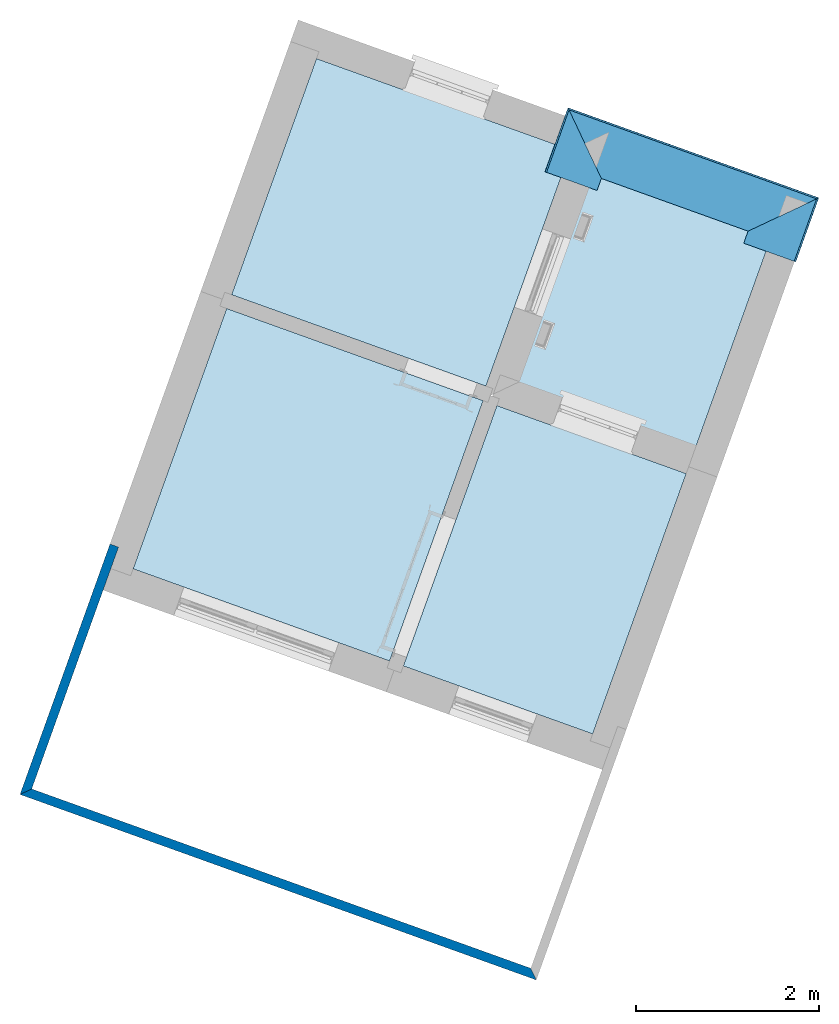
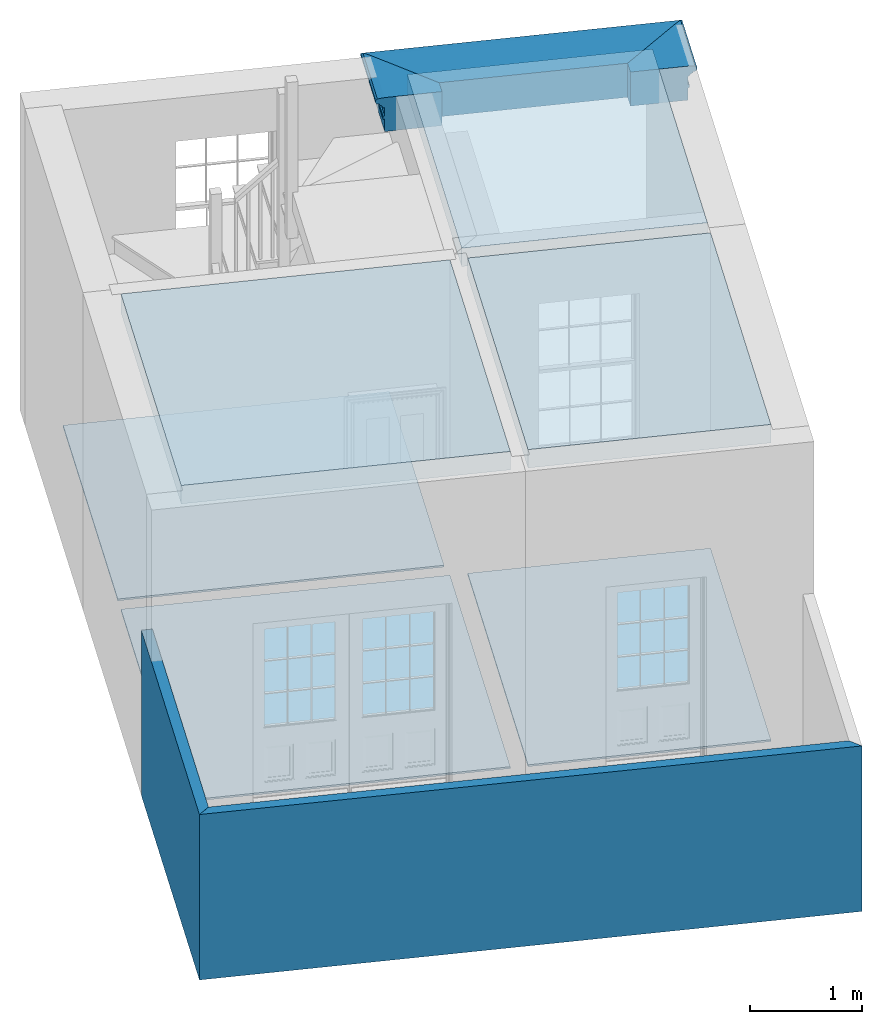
# One storey, part 1 of 8: 6 slabs, 3 beams, 2 walls.
"""IFC4 building model written with IfcOpenShell, lengths in metres."""

from ifc_helpers import new_model, si_unit, frame, origin_with_axes, place, context, subcontext, project, spatial, polyline, outline, extrude, clip, halfspace, material, layer, layer_set, layer_usage, material_profile, profile_set, profile_usage, type_object, element, save


model = new_model("IFC4")

# Units and contexts
model_context = context("Model", 3, world=origin_with_axes())
body_context = subcontext(model_context, "Body", "Model", "MODEL_VIEW")
ifc_project = project(units=[si_unit("PLANEANGLEUNIT", "RADIAN"), si_unit("MASSUNIT", "GRAM", prefix="KILO"), si_unit("FORCEUNIT", "NEWTON", prefix="KILO"), si_unit("LENGTHUNIT", "METRE"), si_unit("AREAUNIT", "SQUARE_METRE"), si_unit("VOLUMEUNIT", "CUBIC_METRE")], contexts=[model_context, model_context])

# Sites, building, storey
site_1_placement = place(None, origin_with_axes())
site_1 = spatial("IfcSite", under=ifc_project, at=site_1_placement, Name="Tamar")
site_2_placement = place(site_1_placement, origin_with_axes())
site_2 = spatial("IfcSite", under=site_1, at=site_2_placement, Name="Site plot-25", CompositionType="ELEMENT")
building_placement = place(None, origin_with_axes())
building = spatial("IfcBuilding", under=site_2, at=building_placement, Name="Building plot-25", CompositionType="ELEMENT")
storey_placement = place(None, frame((0.0, 0.0, 26.0), z_axis=(0.0, 0.0, 1.0), x_axis=(1.0, 0.0, 0.0)))
storey = spatial("IfcBuildingStorey", under=building, at=storey_placement, Name="plot-25 0", CompositionType="ELEMENT", Elevation=26.0)

# Beams
ifc_material_profile = material_profile(None, outline(polyline([(-0.26, 0.0), (-0.26, -0.37), (0.26, -0.37), (0.26, -0.235), (0.275, -0.235), (0.275, -0.2), (0.26, -0.2), (0.26, -0.11), (0.275, -0.11), (0.278, -0.098), (0.284, -0.089), (0.293, -0.083), (0.305, -0.08), (0.305, -0.065), (0.315, -0.065), (0.326, -0.063), (0.336, -0.056), (0.343, -0.047), (0.345, -0.035), (0.343, -0.023), (0.336, -0.014), (0.326, -0.007), (0.315, -0.005), (0.26, 0.0), (-0.26, 0.0)])))
ifc_profile_set = profile_set([ifc_material_profile])
ifc_profile_usage_1 = profile_usage(ifc_profile_set)
beam_type = type_object("IfcBeamType", Name="external beam_0", PredefinedType="NOTDEFINED", material=ifc_profile_set)
beam_1_placement = place(storey_placement, frame((281.75505485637, 276.904583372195, 3.45), z_axis=(-0.338164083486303, -0.941087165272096, 0.0), x_axis=(0.941087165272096, -0.338164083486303, 0.0)))
element("IfcBeam", 1, at=beam_1_placement, inside=storey, type_object=beam_type, material=ifc_profile_usage_1, Name="external beam_0", context=body_context, shape_type="Clipping", body=[
    clip(clip(extrude(outline(polyline([(-0.26, 0.0), (-0.26, -0.37), (0.26, -0.37), (0.26, -0.235), (0.275, -0.235), (0.275, -0.2), (0.26, -0.2), (0.26, -0.11), (0.275, -0.11), (0.278, -0.098), (0.284, -0.089), (0.293, -0.083), (0.305, -0.08), (0.305, -0.065), (0.315, -0.065), (0.326, -0.063), (0.336, -0.056), (0.343, -0.047), (0.345, -0.035), (0.343, -0.023), (0.336, -0.014), (0.326, -0.007), (0.315, -0.005), (0.26, 0.0), (-0.26, 0.0)])), origin_with_axes(), (0.0, 0.0, 1.0), 2.39999999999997), halfspace(frame((0.0, 0.0, 1.39999999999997), z_axis=(-2.89270309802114e-14, 0.0, -1.0), x_axis=(0.0, 1.0, 0.0)), True)), halfspace(frame((0.0, 0.0, 1.0), z_axis=(-0.707106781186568, 0.0, -0.707106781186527), x_axis=(0.0, 1.0, 0.0)), False)),
])
ifc_profile_usage_2 = profile_usage(ifc_profile_set)
beam_2_placement = place(storey_placement, frame((278.3820208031, 277.054026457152, 3.45), z_axis=(0.941087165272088, -0.338164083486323, 0.0), x_axis=(0.338164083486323, 0.941087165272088, 0.0)))
element("IfcBeam", 2, at=beam_2_placement, inside=storey, type_object=beam_type, material=ifc_profile_usage_2, Name="external beam_0", context=body_context, shape_type="Clipping", body=[
    clip(clip(extrude(outline(polyline([(-0.26, 0.0), (-0.26, -0.37), (0.26, -0.37), (0.26, -0.235), (0.275, -0.235), (0.275, -0.2), (0.26, -0.2), (0.26, -0.11), (0.275, -0.11), (0.278, -0.098), (0.284, -0.089), (0.293, -0.083), (0.305, -0.08), (0.305, -0.065), (0.315, -0.065), (0.326, -0.063), (0.336, -0.056), (0.343, -0.047), (0.345, -0.035), (0.343, -0.023), (0.336, -0.014), (0.326, -0.007), (0.315, -0.005), (0.26, 0.0), (-0.26, 0.0)])), origin_with_axes(), (0.0, 0.0, 1.0), 4.22485533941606), halfspace(frame((0.0, 0.0, 3.22485533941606), z_axis=(0.707106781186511, 0.0, -0.707106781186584), x_axis=(0.0, 1.0, 0.0)), True)), halfspace(frame((0.0, 0.0, 1.0), z_axis=(-0.707106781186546, 0.0, -0.707106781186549), x_axis=(0.0, 1.0, 0.0)), False)),
])
ifc_profile_usage_3 = profile_usage(ifc_profile_set)
beam_3_placement = place(storey_placement, frame((278.849678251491, 275.398340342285, 3.45), z_axis=(0.338164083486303, 0.941087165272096, 0.0), x_axis=(-0.941087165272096, 0.338164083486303, 0.0)))
element("IfcBeam", 3, at=beam_3_placement, inside=storey, type_object=beam_type, material=ifc_profile_usage_3, Name="external beam_0", context=body_context, shape_type="Clipping", body=[
    clip(clip(extrude(outline(polyline([(-0.26, 0.0), (-0.26, -0.37), (0.26, -0.37), (0.26, -0.235), (0.275, -0.235), (0.275, -0.2), (0.26, -0.2), (0.26, -0.11), (0.275, -0.11), (0.278, -0.098), (0.284, -0.089), (0.293, -0.083), (0.305, -0.08), (0.305, -0.065), (0.315, -0.065), (0.326, -0.063), (0.336, -0.056), (0.343, -0.047), (0.345, -0.035), (0.343, -0.023), (0.336, -0.014), (0.326, -0.007), (0.315, -0.005), (0.26, 0.0), (-0.26, 0.0)])), origin_with_axes(), (0.0, 0.0, 1.0), 2.39999999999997), halfspace(frame((0.0, 0.0, 1.39999999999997), z_axis=(0.707106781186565, 0.0, -0.70710678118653), x_axis=(0.0, 1.0, 0.0)), True)), halfspace(frame((0.0, 0.0, 1.0), z_axis=(-2.84829417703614e-14, 0.0, -1.0), x_axis=(0.0, 1.0, 0.0)), False)),
])

# Slabs
slab_1_placement = place(storey_placement, frame((274.359324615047, 272.113930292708, 3.25)))
element("IfcSlab", 4, at=slab_1_placement, inside=storey, Name="My Slab", ObjectType="Slab", PredefinedType="FLOOR", context=body_context, shape_type="SweptSolid", body=[
    extrude(outline(polyline([(0.0, 0.0), (2.80464894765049, -1.00780413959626), (3.82766309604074, 1.83917320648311), (1.02301414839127, 2.84697734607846), (0.0, 0.0)])), origin_with_axes(), (0.0, 0.0, 1.0), 0.2),
])
slab_2_placement = place(storey_placement, frame((274.359324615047, 272.113930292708, 0.0)))
element("IfcSlab", 5, at=slab_2_placement, inside=storey, Name="My Slab", ObjectType="Slab", PredefinedType="FLOOR", context=body_context, shape_type="SweptSolid", body=[
    extrude(outline(polyline([(0.0, 0.0), (2.80464894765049, -1.00780413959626), (3.82766309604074, 1.83917320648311), (1.02301414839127, 2.84697734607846), (0.0, 0.0)])), origin_with_axes(), (0.0, 0.0, 1.0), 0.02),
])
slab_3_placement = place(storey_placement, frame((278.337561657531, 273.898997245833, 3.25)))
element("IfcSlab", 6, at=slab_3_placement, inside=storey, Name="My Slab", ObjectType="Slab", PredefinedType="FLOOR", context=body_context, shape_type="SweptSolid", body=[
    extrude(outline(polyline([(0.0, 0.0), (-1.02301414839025, -2.84697734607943), (1.04716842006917, -3.59086315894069), (2.07018256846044, -0.743885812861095), (0.0, 0.0)])), origin_with_axes(), (0.0, 0.0, 1.0), 0.2),
])
slab_4_placement = place(storey_placement, frame((278.337561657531, 273.898997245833, 0.0)))
element("IfcSlab", 7, at=slab_4_placement, inside=storey, Name="My Slab", ObjectType="Slab", PredefinedType="FLOOR", context=body_context, shape_type="SweptSolid", body=[
    extrude(outline(polyline([(0.0, 0.0), (-1.02301414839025, -2.84697734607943), (1.04716842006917, -3.59086315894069), (2.07018256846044, -0.743885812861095), (0.0, 0.0)])), origin_with_axes(), (0.0, 0.0, 1.0), 0.02),
])
slab_5_placement = place(storey_placement, frame((278.368067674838, 274.058051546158, 3.25)))
element("IfcSlab", 8, at=slab_5_placement, inside=storey, Name="My Slab", ObjectType="Slab", PredefinedType="FLOOR", context=body_context, shape_type="SweptSolid", body=[
    extrude(outline(polyline([(0.0, 0.0), (2.09378280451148, -0.752366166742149), (3.02176997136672, 1.83015768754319), (0.927987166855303, 2.58252385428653), (0.0, 0.0)])), origin_with_axes(), (0.0, 0.0, 1.0), 0.2),
])
slab_6_placement = place(storey_placement, frame((275.436445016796, 275.11148158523, 0.0)))
element("IfcSlab", 9, at=slab_6_placement, inside=storey, Name="My Slab", ObjectType="Slab", PredefinedType="FLOOR", context=body_context, shape_type="SweptSolid", body=[
    extrude(outline(polyline([(0.0, 0.0), (2.78104871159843, -0.999323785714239), (3.70903587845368, 1.58320006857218), (0.927987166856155, 2.58252385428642), (0.0, 0.0)])), origin_with_axes(), (0.0, 0.0, 1.0), 0.02),
])

# Walls
ifc_material = material(Name="Masonry")
ifc_layer = layer(ifc_material, 0.1, ventilated=False)
ifc_layer_set = layer_set([ifc_layer], Name="fence_-0.15_0.25")
ifc_layer_usage = layer_usage(ifc_layer_set, "AXIS2", "POSITIVE", -0.25)
wall_type = type_object("IfcWallType", Name="fence_-0.15_0.25", PredefinedType="SOLIDWALL", material=ifc_layer_set)
wall_1_placement = place(storey_placement, frame((274.256984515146, 272.065696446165, 0.0), z_axis=(0.0, 0.0, 1.0), x_axis=(-0.338164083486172, -0.941087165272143, 0.0)))
element("IfcWall", 10, at=wall_1_placement, inside=storey, type_object=wall_type, material=ifc_layer_usage, Name="fence", context=body_context, shape_type="SweptSolid", body=[
    extrude(outline(polyline([(-0.249999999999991, -0.150000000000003), (-0.25, -0.250000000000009), (2.66060753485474, -0.250000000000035), (2.56060753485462, -0.150000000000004), (-0.249999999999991, -0.150000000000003)])), origin_with_axes(), (0.0, 0.0, 1.0), 1.8),
])
wall_2_placement = place(storey_placement, frame((273.441803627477, 269.797104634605, 0.0), z_axis=(0.0, 0.0, 1.0), x_axis=(0.941087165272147, -0.338164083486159, 0.0)))
element("IfcWall", 11, at=wall_2_placement, inside=storey, type_object=wall_type, material=ifc_layer_usage, Name="fence", context=body_context, shape_type="SweptSolid", body=[
    extrude(outline(polyline([(-0.150000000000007, -0.149999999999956), (-0.250000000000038, -0.250000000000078), (5.75000000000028, -0.249999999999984), (5.65000000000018, -0.150000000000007), (-0.150000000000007, -0.149999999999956)])), origin_with_axes(), (0.0, 0.0, 1.0), 1.8),
])

save(model, "model.ifc")
